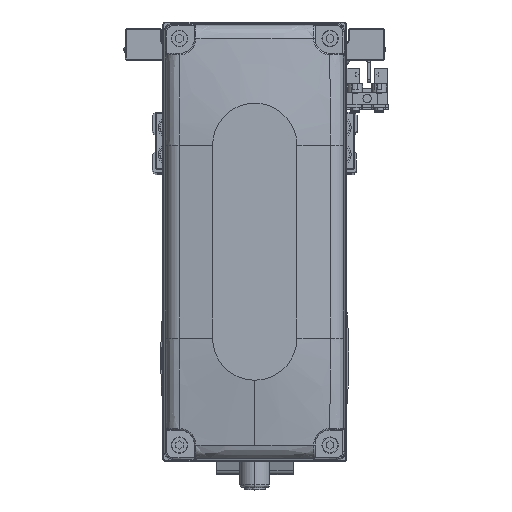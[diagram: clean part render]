
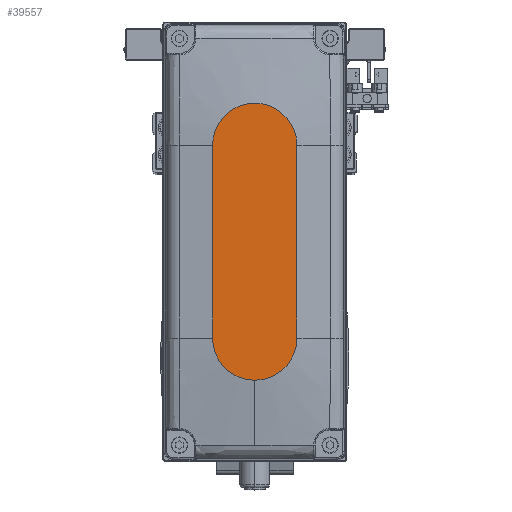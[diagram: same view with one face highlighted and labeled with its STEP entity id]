
A CAD part, top view. The second image highlights one B-rep face of the part: STEP entity #39557.
In plain terms, the highlighted planar face has unit normal (0, 0, 1).
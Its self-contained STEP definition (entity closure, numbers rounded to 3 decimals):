
#990 = CARTESIAN_POINT ( 'NONE',  ( 0., 0., 35. ) ) ;
#2854 = ORIENTED_EDGE ( 'NONE', *, *, #35774, .T. ) ;
#3252 = VERTEX_POINT ( 'NONE', #37372 ) ;
#4215 = CARTESIAN_POINT ( 'NONE',  ( 46., 0., 35. ) ) ;
#5041 = AXIS2_PLACEMENT_3D ( 'NONE', #6402, #20247, #34082 ) ;
#6402 = CARTESIAN_POINT ( 'NONE',  ( 32., 0., 35. ) ) ;
#7702 = ORIENTED_EDGE ( 'NONE', *, *, #23533, .T. ) ;
#10645 = DIRECTION ( 'NONE',  ( 1., 0., 0. ) ) ;
#10689 = EDGE_CURVE ( 'NONE', #3252, #40654, #31421, .T. ) ;
#11860 = AXIS2_PLACEMENT_3D ( 'NONE', #27868, #41708, #10645 ) ;
#12150 = DIRECTION ( 'NONE',  ( 1., 0., 0. ) ) ;
#12596 = LINE ( 'NONE', #26455, #16599 ) ;
#13415 = LINE ( 'NONE', #27272, #25715 ) ;
#14837 = DIRECTION ( 'NONE',  ( 0., 0., 1. ) ) ;
#16599 = VECTOR ( 'NONE', #40292, 1000. ) ;
#17967 = ORIENTED_EDGE ( 'NONE', *, *, #26053, .T. ) ;
#18080 = VERTEX_POINT ( 'NONE', #32968 ) ;
#18238 = FACE_OUTER_BOUND ( 'NONE', #40662, .T. ) ;
#20247 = DIRECTION ( 'NONE',  ( 0., 0., 1. ) ) ;
#20527 = CARTESIAN_POINT ( 'NONE',  ( 32., 14., 35. ) ) ;
#21878 = VERTEX_POINT ( 'NONE', #4215 ) ;
#23533 = EDGE_CURVE ( 'NONE', #39359, #3252, #13415, .T. ) ;
#24620 = CIRCLE ( 'NONE', #5041, 14. ) ;
#25715 = VECTOR ( 'NONE', #41101, 1000. ) ;
#26053 = EDGE_CURVE ( 'NONE', #40654, #18080, #12596, .T. ) ;
#26455 = CARTESIAN_POINT ( 'NONE',  ( -32., -14., 35. ) ) ;
#26849 = ORIENTED_EDGE ( 'NONE', *, *, #10689, .T. ) ;
#27272 = CARTESIAN_POINT ( 'NONE',  ( -32., 14., 35. ) ) ;
#27868 = CARTESIAN_POINT ( 'NONE',  ( -32., 0., 35. ) ) ;
#27962 = CIRCLE ( 'NONE', #33768, 14. ) ;
#28680 = DIRECTION ( 'NONE',  ( 1., 0., 0. ) ) ;
#29397 = CARTESIAN_POINT ( 'NONE',  ( 32., 0., 35. ) ) ;
#31421 = CIRCLE ( 'NONE', #11860, 14. ) ;
#32078 = PLANE ( 'NONE',  #43742 ) ;
#32758 = EDGE_CURVE ( 'NONE', #18080, #21878, #27962, .T. ) ;
#32968 = CARTESIAN_POINT ( 'NONE',  ( 32., -14., 35. ) ) ;
#33768 = AXIS2_PLACEMENT_3D ( 'NONE', #29397, #43233, #12150 ) ;
#34082 = DIRECTION ( 'NONE',  ( 1., 0., 0. ) ) ;
#35774 = EDGE_CURVE ( 'NONE', #21878, #39359, #24620, .T. ) ;
#37372 = CARTESIAN_POINT ( 'NONE',  ( -32., 14., 35. ) ) ;
#38284 = CARTESIAN_POINT ( 'NONE',  ( -32., -14., 35. ) ) ;
#39359 = VERTEX_POINT ( 'NONE', #20527 ) ;
#39557 = ADVANCED_FACE ( 'NONE', ( #18238 ), #32078, .T. ) ;
#40292 = DIRECTION ( 'NONE',  ( 1., 0., 0. ) ) ;
#40654 = VERTEX_POINT ( 'NONE', #38284 ) ;
#40662 = EDGE_LOOP ( 'NONE', ( #7702, #26849, #17967, #42452, #2854 ) ) ;
#41101 = DIRECTION ( 'NONE',  ( -1., 0., 0. ) ) ;
#41708 = DIRECTION ( 'NONE',  ( 0., 0., 1. ) ) ;
#42452 = ORIENTED_EDGE ( 'NONE', *, *, #32758, .T. ) ;
#43233 = DIRECTION ( 'NONE',  ( 0., 0., 1. ) ) ;
#43742 = AXIS2_PLACEMENT_3D ( 'NONE', #990, #14837, #28680 ) ;
